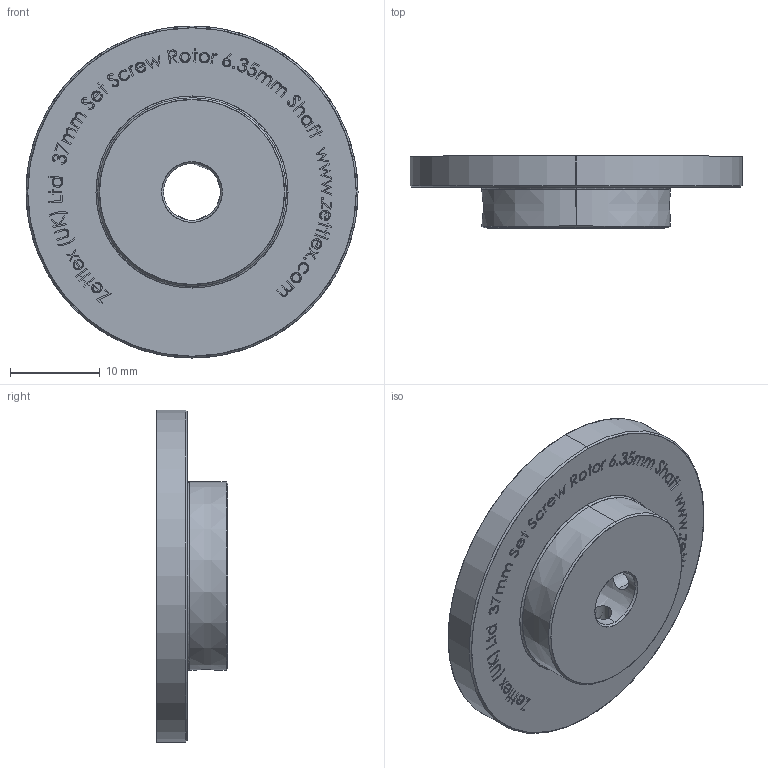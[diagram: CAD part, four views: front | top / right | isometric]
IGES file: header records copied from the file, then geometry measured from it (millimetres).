
Start section: SolidWorks IGES file using analytic representation for surfaces
Global section: file name: C:\Zettlex Data\Mechanical Drawings\4114\37mm Set Screw Rotor 6.35mm Shaft Rev 1-0.IGS; native system: SolidWorks 2015; preprocessor: SolidWorks 2015; author: Nigel; date: 150904.162146; units: millimetre
Bounding box: 37 x 8 x 37 mm (x, y, z)
Surface area: 3052.9 mm2 (no closed solid volume)
Topology: 0 solids, 0 shells, 796 faces, 8790 edges, 8790 vertices
Faces by surface type: bspline 772, revolution 24
